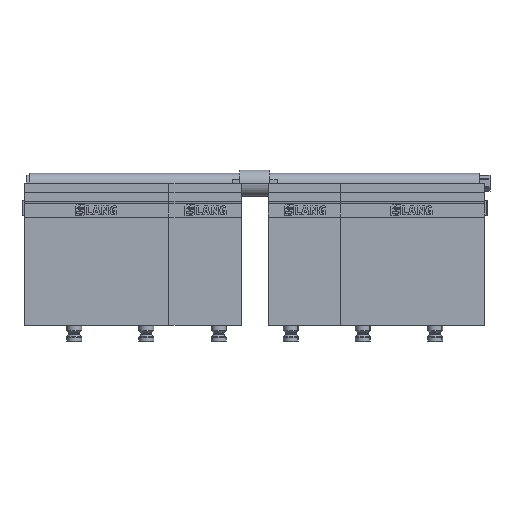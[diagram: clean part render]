
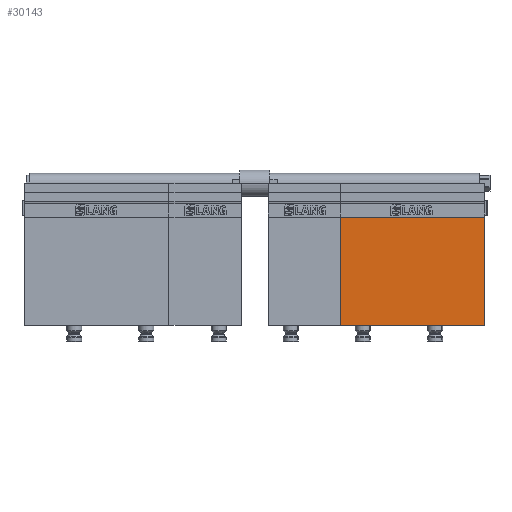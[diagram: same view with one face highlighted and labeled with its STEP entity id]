
A CAD part, top view. The second image highlights one B-rep face of the part: STEP entity #30143.
In plain terms, the highlighted planar face has unit normal (0, 0, 1).
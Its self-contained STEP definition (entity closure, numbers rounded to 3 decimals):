
#7213 = VERTEX_POINT ( 'NONE', #82662 ) ;
#7712 = VECTOR ( 'NONE', #43874, 1000. ) ;
#9510 = VERTEX_POINT ( 'NONE', #69263 ) ;
#9629 = VERTEX_POINT ( 'NONE', #77344 ) ;
#12591 = DIRECTION ( 'NONE',  ( 0., 0., -1. ) ) ;
#20183 = DIRECTION ( 'NONE',  ( -1., 0., 0. ) ) ;
#27194 = EDGE_CURVE ( 'NONE', #9510, #7213, #53885, .T. ) ;
#29776 = EDGE_LOOP ( 'NONE', ( #73088, #35584, #50927, #30085 ) ) ;
#30085 = ORIENTED_EDGE ( 'NONE', *, *, #86266, .F. ) ;
#30143 = ADVANCED_FACE ( 'NONE', ( #32316 ), #40817, .F. ) ;
#32008 = CARTESIAN_POINT ( 'NONE',  ( 113.99, 0., 62.8 ) ) ;
#32316 = FACE_OUTER_BOUND ( 'NONE', #29776, .T. ) ;
#32630 = EDGE_CURVE ( 'NONE', #9629, #42196, #84660, .T. ) ;
#35584 = ORIENTED_EDGE ( 'NONE', *, *, #62837, .F. ) ;
#38230 = LINE ( 'NONE', #65582, #53156 ) ;
#40817 = PLANE ( 'NONE',  #86946 ) ;
#42196 = VERTEX_POINT ( 'NONE', #32008 ) ;
#43433 = VECTOR ( 'NONE', #82317, 1000. ) ;
#43874 = DIRECTION ( 'NONE',  ( 0., -1., 0. ) ) ;
#46717 = CARTESIAN_POINT ( 'NONE',  ( 305.99, 189., 62.8 ) ) ;
#50927 = ORIENTED_EDGE ( 'NONE', *, *, #32630, .T. ) ;
#53156 = VECTOR ( 'NONE', #72318, 1000. ) ;
#53504 = VECTOR ( 'NONE', #67339, 1000. ) ;
#53885 = LINE ( 'NONE', #46717, #53504 ) ;
#54090 = LINE ( 'NONE', #54965, #43433 ) ;
#54965 = CARTESIAN_POINT ( 'NONE',  ( 113.99, 143.799, 62.8 ) ) ;
#62837 = EDGE_CURVE ( 'NONE', #9629, #9510, #54090, .T. ) ;
#65582 = CARTESIAN_POINT ( 'NONE',  ( 306.2, 0., 62.8 ) ) ;
#67031 = CARTESIAN_POINT ( 'NONE',  ( 113.99, 189., 62.8 ) ) ;
#67339 = DIRECTION ( 'NONE',  ( 0., -1., 0. ) ) ;
#69263 = CARTESIAN_POINT ( 'NONE',  ( 305.99, 143.799, 62.8 ) ) ;
#72318 = DIRECTION ( 'NONE',  ( -1., 0., 0. ) ) ;
#73088 = ORIENTED_EDGE ( 'NONE', *, *, #27194, .F. ) ;
#74513 = CARTESIAN_POINT ( 'NONE',  ( 306.2, -0.2, 62.8 ) ) ;
#77344 = CARTESIAN_POINT ( 'NONE',  ( 113.99, 143.799, 62.8 ) ) ;
#82317 = DIRECTION ( 'NONE',  ( 1., 0., 0. ) ) ;
#82662 = CARTESIAN_POINT ( 'NONE',  ( 305.99, 0., 62.8 ) ) ;
#84660 = LINE ( 'NONE', #67031, #7712 ) ;
#86266 = EDGE_CURVE ( 'NONE', #7213, #42196, #38230, .T. ) ;
#86946 = AXIS2_PLACEMENT_3D ( 'NONE', #74513, #12591, #20183 ) ;
